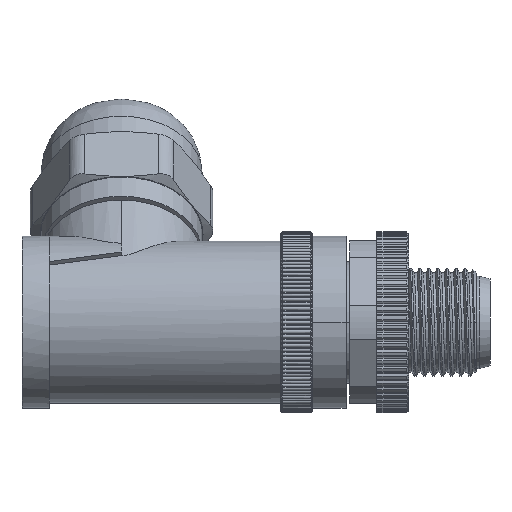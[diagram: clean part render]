
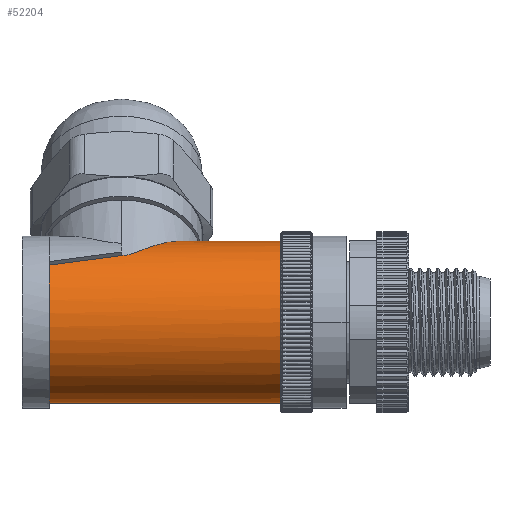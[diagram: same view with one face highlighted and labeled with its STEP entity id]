
A CAD part, left-side view. The second image highlights one B-rep face of the part: STEP entity #52204.
In plain terms, the highlighted cylindrical face has radius 8.95 mm (diameter 17.9 mm), a partial arc.
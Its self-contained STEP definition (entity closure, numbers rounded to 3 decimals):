
#11346=CARTESIAN_POINT('',(0.,16.385,
8.95));
#12261=CARTESIAN_POINT('',(0.,4.9,0.));
#12262=DIRECTION('',(0.,-1.,0.));
#12263=DIRECTION('',(0.,0.,1.));
#12264=AXIS2_PLACEMENT_3D('',#12261,#12262,#12263);
#12266=DIRECTION('',(0.,-1.,0.));
#12267=VECTOR('',#12266,25.6);
#12268=CARTESIAN_POINT('',(0.,30.5,-8.95));
#12269=LINE('',#12268,#12267);
#12270=CARTESIAN_POINT('',(0.,30.5,0.));
#12271=DIRECTION('',(0.,1.,0.));
#12272=DIRECTION('',(0.,0.,-1.));
#12273=AXIS2_PLACEMENT_3D('',#12270,#12271,#12272);
#12275=CARTESIAN_POINT('',(-5.069,22.5,7.376));
#12276=CARTESIAN_POINT('',(-5.524,25.166,
7.063));
#12277=CARTESIAN_POINT('',(-5.944,27.832,
6.713));
#12278=CARTESIAN_POINT('',(-6.329,30.5,6.329));
#12280=CARTESIAN_POINT('',(-5.069,22.5,7.376));
#12281=CARTESIAN_POINT('',(-5.069,22.31,
7.376));
#12282=CARTESIAN_POINT('',(-5.012,21.924,
7.416));
#12283=CARTESIAN_POINT('',(-4.762,21.322,
7.581));
#12284=CARTESIAN_POINT('',(-4.398,20.717,
7.8));
#12285=CARTESIAN_POINT('',(-3.939,20.091,
8.043));
#12286=CARTESIAN_POINT('',(-3.387,19.434,
8.293));
#12287=CARTESIAN_POINT('',(-2.737,18.738,
8.532));
#12288=CARTESIAN_POINT('',(-1.974,17.997,
8.743));
#12289=CARTESIAN_POINT('',(-1.081,17.214,
8.902));
#12290=CARTESIAN_POINT('',(-0.379,16.662,
8.95));
#12291=CARTESIAN_POINT('',(0.,16.385,
8.95));
#12293=DIRECTION('',(0.,-1.,0.));
#12294=VECTOR('',#12293,11.485);
#12295=CARTESIAN_POINT('',(0.,16.385,
8.95));
#12296=LINE('',#12295,#12294);
#38513=VERTEX_POINT('',#11346);
#38520=CARTESIAN_POINT('',(-6.329,30.5,6.329));
#38521=VERTEX_POINT('',#38520);
#38527=CARTESIAN_POINT('',(-5.069,22.5,7.376));
#38529=VERTEX_POINT('',#38527);
#38534=CARTESIAN_POINT('',(0.,30.5,-8.95));
#38535=VERTEX_POINT('',#38534);
#42344=CARTESIAN_POINT('',(0.,4.9,-8.95));
#42345=VERTEX_POINT('',#42344);
#42346=CARTESIAN_POINT('',(0.,4.9,8.95));
#42347=VERTEX_POINT('',#42346);
#52188=CARTESIAN_POINT('',(0.,33.5,0.));
#52189=DIRECTION('',(0.,-1.,0.));
#52190=DIRECTION('',(0.,0.,-1.));
#52191=AXIS2_PLACEMENT_3D('',#52188,#52189,#52190);
#52192=CYLINDRICAL_SURFACE('',#52191,8.95);
#52193=ORIENTED_EDGE('',*,*,#49814,.T.);
#52194=ORIENTED_EDGE('',*,*,#51154,.F.);
#52196=ORIENTED_EDGE('',*,*,#52195,.T.);
#52198=ORIENTED_EDGE('',*,*,#52197,.F.);
#52200=ORIENTED_EDGE('',*,*,#52199,.T.);
#52201=ORIENTED_EDGE('',*,*,#51144,.T.);
#52202=EDGE_LOOP('',(#52193,#52194,#52196,#52198,#52200,#52201));
#52203=FACE_OUTER_BOUND('',#52202,.F.);
#52204=ADVANCED_FACE('',(#52203),#52192,.T.);
#12265=CIRCLE('',#12264,8.95);
#12274=CIRCLE('',#12273,8.95);
#12279=B_SPLINE_CURVE_WITH_KNOTS('',3,(#12275,#12276,#12277,#12278),
.UNSPECIFIED.,.F.,.F.,(4,4),(0.,1.),.UNSPECIFIED.);
#12292=B_SPLINE_CURVE_WITH_KNOTS('',3,(#12280,#12281,#12282,#12283,#12284,
#12285,#12286,#12287,#12288,#12289,#12290,#12291),.UNSPECIFIED.,.F.,.F.,(4,1,1,
1,1,1,1,1,1,4),(0.,0.111,0.222,0.333,
0.444,0.556,0.667,0.778,
0.889,1.),.UNSPECIFIED.);
#49814=EDGE_CURVE('',#42347,#42345,#12265,.T.);
#51144=EDGE_CURVE('',#38513,#42347,#12296,.T.);
#51154=EDGE_CURVE('',#38535,#42345,#12269,.T.);
#52195=EDGE_CURVE('',#38535,#38521,#12274,.T.);
#52197=EDGE_CURVE('',#38529,#38521,#12279,.T.);
#52199=EDGE_CURVE('',#38529,#38513,#12292,.T.);
